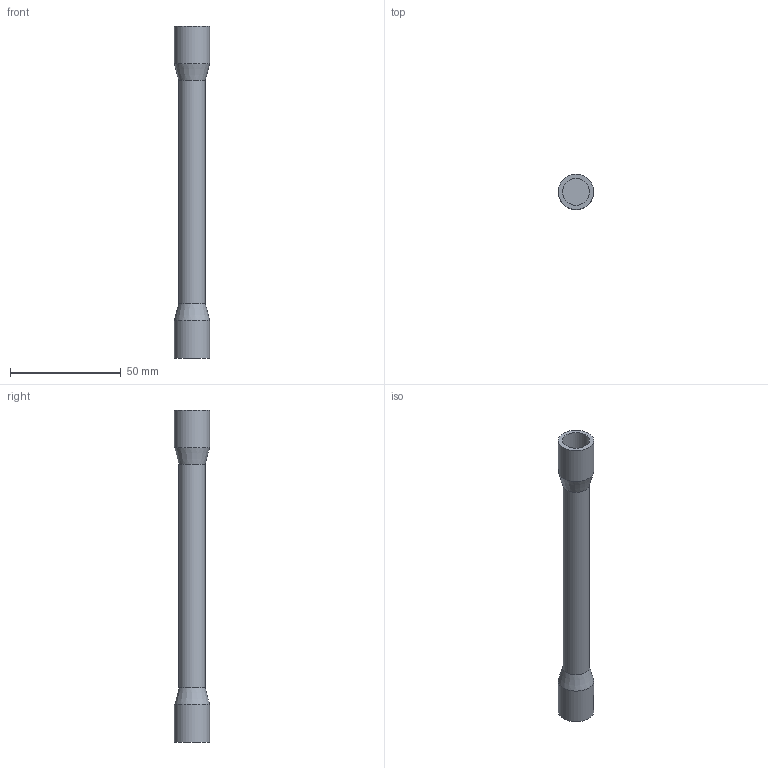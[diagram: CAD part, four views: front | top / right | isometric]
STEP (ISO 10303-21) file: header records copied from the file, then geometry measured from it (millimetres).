
FILE_DESCRIPTION( ( '' ), ' ' );
FILE_NAME( '/vol/tmp/translate-4497510423059555918/589d33e2876aac0fbabf0e60.step', '2017-02-10T03:30:43', ( '' ), ( '' ), ' ', ' ', ' ' );
FILE_SCHEMA( ( 'AUTOMOTIVE_DESIGN { 1 0 10303 214 1 1 1 1 }' ) );
Length unit declared in the file: metre
Products named in the file (1): Part 1
Bounding box: 16 x 16 x 150 mm (x, y, z)
Volume: 18476.5 mm3; surface area: 7291.1 mm2
Topology: 1 solids, 1 shells, 11 faces, 19 edges, 12 vertices
Faces by surface type: cylinder 5, plane 4, cone 2
Full cylindrical faces by diameter (mm): 12 x1, 12.2 x2, 16 x2
Entity records: 318 total; most frequent: DIRECTION 44, CARTESIAN_POINT 32, AXIS2_PLACEMENT_3D 22, EDGE_LOOP 20, ORIENTED_EDGE 20, FACE_OUTER_BOUND 16, STYLED_ITEM 11, PRESENTATION_STYLE_ASSIGNMENT 11
